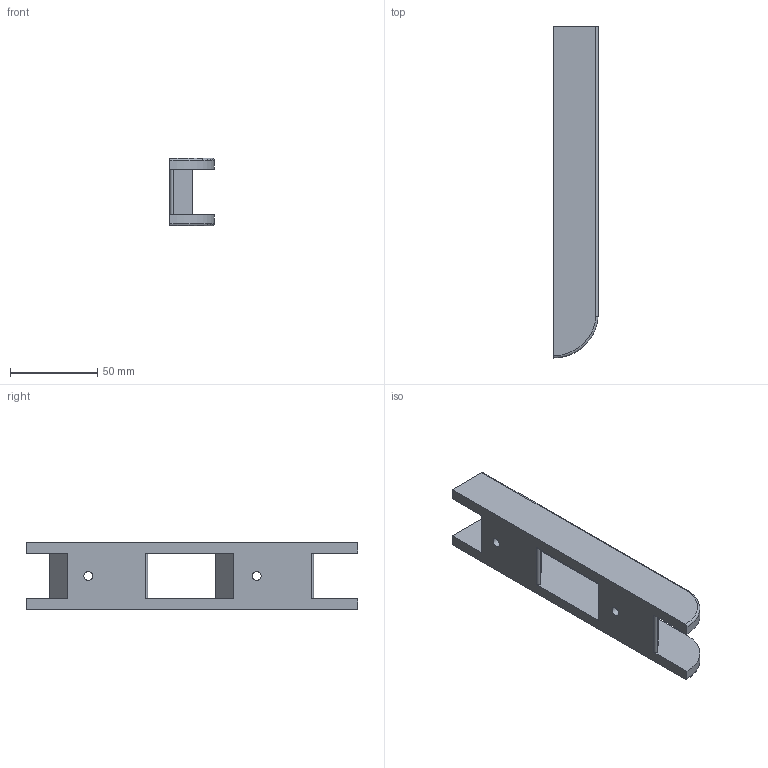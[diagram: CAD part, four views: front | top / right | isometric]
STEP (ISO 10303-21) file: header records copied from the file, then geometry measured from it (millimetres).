
FILE_DESCRIPTION(/* description */ ('STEP AP242','CAx-IF Rec.Pracs.---Representation and Presentation of Product Manufacturing Information (PMI)---4.0---2014-10-13','CAx-IF Rec.Pracs.---3D Tessellated Geometry---0.4---2014-09-14','2;1'),/* implementation_level */ '2;1');
FILE_NAME(/* name */ '677e1478248f357686529298',/* time_stamp */ '2025-01-08T06:00:25Z',/* author */ (''),/* organization */ (''),/* preprocessor_version */ 'ST-DEVELOPER v20',/* originating_system */ 'ONSHAPE BY PTC INC, 1.191',/* authorisation */ ' ');
FILE_SCHEMA (('AP242_MANAGED_MODEL_BASED_3D_ENGINEERING_MIM_LF { 1 0 10303 442 1 1 4 }'));
Length unit declared in the file: metre
Products named in the file (1): Wall Bracket-7.5
Bounding box: 25.4 x 190.5 x 38.74 mm (x, y, z)
Volume: 89537.6 mm3; surface area: 28435.5 mm2
Topology: 1 solids, 1 shells, 33 faces, 86 edges, 56 vertices
Faces by surface type: plane 17, cylinder 12, torus 2, cone 2
Full cylindrical faces by diameter (mm): 5.08 x2, 12.7 x2
Entity records: 1024 total; most frequent: CARTESIAN_POINT 178, DIRECTION 174, ORIENTED_EDGE 160, EDGE_CURVE 80, AXIS2_PLACEMENT_3D 62, VERTEX_POINT 56, LINE 50, VECTOR 50
